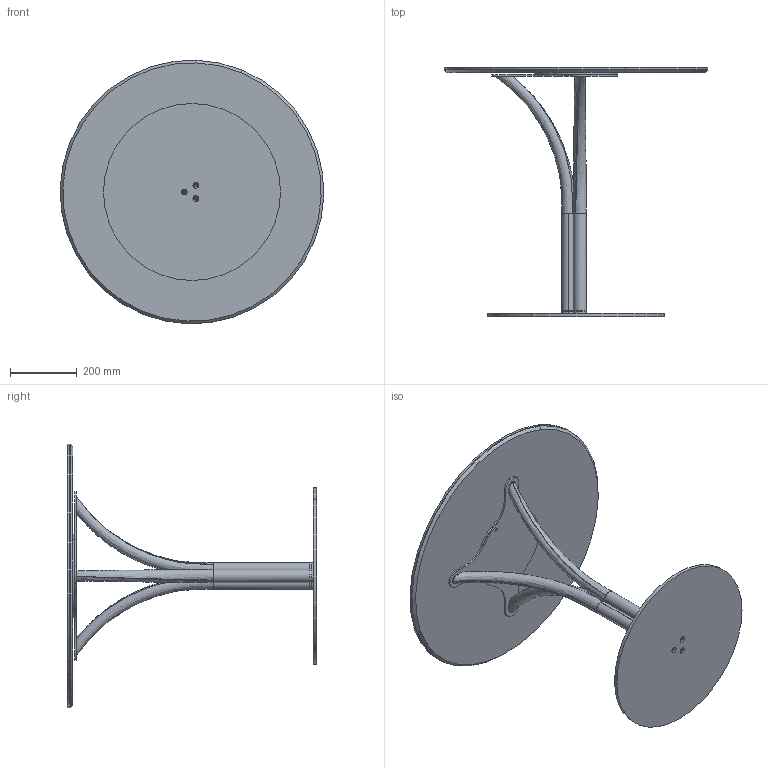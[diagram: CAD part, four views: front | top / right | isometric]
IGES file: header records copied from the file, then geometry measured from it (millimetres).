
Start section: SolidWorks IGES file using analytic representation for surfaces
Global section: file name: Y:\eforma\TECNICO\SOLIDWORKS\E-FORMA\5-TAVOLINI BISTRO\DODÒ\02 parts\DB12C.IGS; native system: SolidWorks 2022; preprocessor: SolidWorks 2022; author: eforma.tech; date: 240808.101312; units: millimetre
Bounding box: 789.44 x 747 x 789.44 mm (x, y, z)
Volume: 11152789.5 mm3; surface area: 3226885.2 mm2
Topology: 11 solids, 11 shells, 113 faces, 265 edges, 174 vertices
Faces by surface type: revolution 73, plane 28, bspline 12
